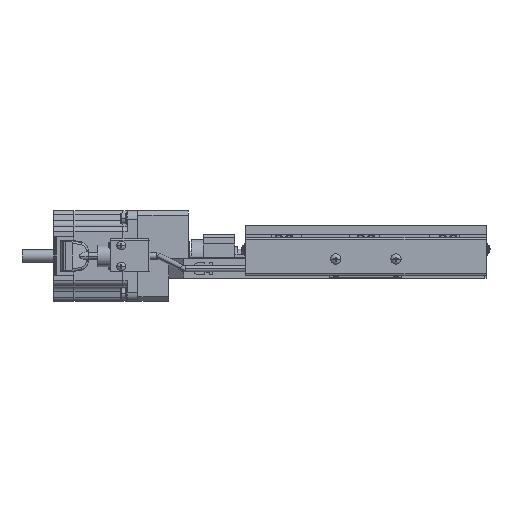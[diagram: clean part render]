
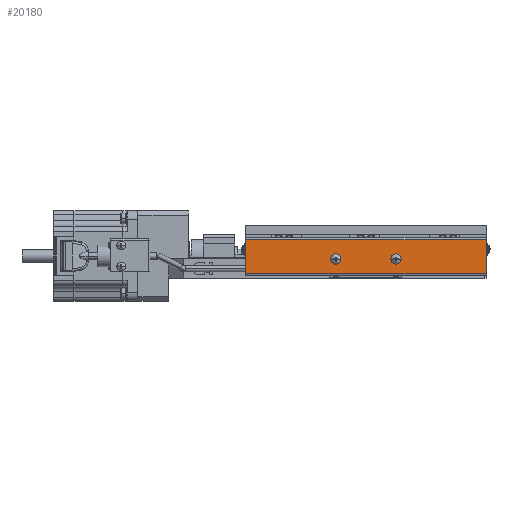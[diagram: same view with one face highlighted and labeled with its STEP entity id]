
A CAD part, front view. The second image highlights one B-rep face of the part: STEP entity #20180.
In plain terms, the highlighted planar face has unit normal (0, -1, 0).
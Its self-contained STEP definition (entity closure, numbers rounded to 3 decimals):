
#761 = CARTESIAN_POINT ( 'NONE',  ( 13.281, -236.094, 32. ) ) ;
#2467 = CARTESIAN_POINT ( 'NONE',  ( -90.169, -236.094, 43. ) ) ;
#3097 = ORIENTED_EDGE ( 'NONE', *, *, #27129, .F. ) ;
#3751 = DIRECTION ( 'NONE',  ( 0., -1., 0. ) ) ;
#4592 = CARTESIAN_POINT ( 'NONE',  ( 13.281, -236.094, 32. ) ) ;
#8463 = CARTESIAN_POINT ( 'NONE',  ( -86.719, -236.094, 43. ) ) ;
#9250 = EDGE_LOOP ( 'NONE', ( #38062, #51932, #44934, #31125 ) ) ;
#9367 = EDGE_CURVE ( 'NONE', #53500, #61115, #40804, .T. ) ;
#12209 = LINE ( 'NONE', #32824, #65970 ) ;
#12450 = DIRECTION ( 'NONE',  ( 0., -1., 0. ) ) ;
#13951 = AXIS2_PLACEMENT_3D ( 'NONE', #53475, #69715, #64525 ) ;
#17056 = CIRCLE ( 'NONE', #25833, 3.45 ) ;
#17706 = EDGE_LOOP ( 'NONE', ( #23760, #3097 ) ) ;
#18167 = DIRECTION ( 'NONE',  ( 1., 0., 0. ) ) ;
#18319 = CARTESIAN_POINT ( 'NONE',  ( -46.719, -236.094, 43. ) ) ;
#18697 = AXIS2_PLACEMENT_3D ( 'NONE', #18319, #12450, #49997 ) ;
#19873 = CARTESIAN_POINT ( 'NONE',  ( -146.719, -236.094, 32. ) ) ;
#20180 = ADVANCED_FACE ( 'NONE', ( #62602, #51694, #61791 ), #38775, .T. ) ;
#21415 = EDGE_CURVE ( 'NONE', #61442, #67387, #17056, .T. ) ;
#21743 = AXIS2_PLACEMENT_3D ( 'NONE', #8463, #45516, #34754 ) ;
#22505 = DIRECTION ( 'NONE',  ( -1., 0., 0. ) ) ;
#22961 = VECTOR ( 'NONE', #18167, 1000. ) ;
#23760 = ORIENTED_EDGE ( 'NONE', *, *, #35567, .F. ) ;
#24271 = ORIENTED_EDGE ( 'NONE', *, *, #21415, .F. ) ;
#25833 = AXIS2_PLACEMENT_3D ( 'NONE', #25882, #3751, #36646 ) ;
#25882 = CARTESIAN_POINT ( 'NONE',  ( -46.719, -236.094, 43. ) ) ;
#27129 = EDGE_CURVE ( 'NONE', #31441, #48971, #68517, .T. ) ;
#27445 = CARTESIAN_POINT ( 'NONE',  ( -146.719, -236.094, 33.2 ) ) ;
#27873 = CIRCLE ( 'NONE', #13951, 3.45 ) ;
#30843 = EDGE_CURVE ( 'NONE', #67387, #61442, #37790, .T. ) ;
#31125 = ORIENTED_EDGE ( 'NONE', *, *, #68982, .T. ) ;
#31441 = VERTEX_POINT ( 'NONE', #2467 ) ;
#31884 = CARTESIAN_POINT ( 'NONE',  ( -50.169, -236.094, 43. ) ) ;
#32824 = CARTESIAN_POINT ( 'NONE',  ( 13.281, -236.094, 55.8 ) ) ;
#34754 = DIRECTION ( 'NONE',  ( 1., 0., 0. ) ) ;
#35567 = EDGE_CURVE ( 'NONE', #48971, #31441, #27873, .T. ) ;
#36646 = DIRECTION ( 'NONE',  ( 1., 0., 0. ) ) ;
#37028 = DIRECTION ( 'NONE',  ( 0., 0., 1. ) ) ;
#37236 = LINE ( 'NONE', #50292, #22961 ) ;
#37790 = CIRCLE ( 'NONE', #18697, 3.45 ) ;
#38062 = ORIENTED_EDGE ( 'NONE', *, *, #55019, .F. ) ;
#38697 = LINE ( 'NONE', #19873, #51289 ) ;
#38775 = PLANE ( 'NONE',  #58601 ) ;
#39475 = DIRECTION ( 'NONE',  ( 1., 0., 0. ) ) ;
#39862 = CARTESIAN_POINT ( 'NONE',  ( -146.719, -236.094, 55.8 ) ) ;
#40058 = CARTESIAN_POINT ( 'NONE',  ( 13.281, -236.094, 33.2 ) ) ;
#40804 = LINE ( 'NONE', #4592, #64347 ) ;
#41036 = CARTESIAN_POINT ( 'NONE',  ( -43.269, -236.094, 43. ) ) ;
#44934 = ORIENTED_EDGE ( 'NONE', *, *, #9367, .T. ) ;
#45516 = DIRECTION ( 'NONE',  ( 0., -1., 0. ) ) ;
#48971 = VERTEX_POINT ( 'NONE', #55353 ) ;
#49997 = DIRECTION ( 'NONE',  ( 1., 0., 0. ) ) ;
#50292 = CARTESIAN_POINT ( 'NONE',  ( 13.281, -236.094, 33.2 ) ) ;
#51289 = VECTOR ( 'NONE', #68223, 1000. ) ;
#51694 = FACE_BOUND ( 'NONE', #58525, .T. ) ;
#51932 = ORIENTED_EDGE ( 'NONE', *, *, #53758, .T. ) ;
#53475 = CARTESIAN_POINT ( 'NONE',  ( -86.719, -236.094, 43. ) ) ;
#53500 = VERTEX_POINT ( 'NONE', #40058 ) ;
#53758 = EDGE_CURVE ( 'NONE', #65854, #53500, #37236, .T. ) ;
#54964 = DIRECTION ( 'NONE',  ( 0., -1., 0. ) ) ;
#55019 = EDGE_CURVE ( 'NONE', #65854, #58467, #38697, .T. ) ;
#55353 = CARTESIAN_POINT ( 'NONE',  ( -83.269, -236.094, 43. ) ) ;
#58467 = VERTEX_POINT ( 'NONE', #39862 ) ;
#58525 = EDGE_LOOP ( 'NONE', ( #24271, #58613 ) ) ;
#58601 = AXIS2_PLACEMENT_3D ( 'NONE', #761, #54964, #39475 ) ;
#58613 = ORIENTED_EDGE ( 'NONE', *, *, #30843, .F. ) ;
#61115 = VERTEX_POINT ( 'NONE', #63674 ) ;
#61442 = VERTEX_POINT ( 'NONE', #41036 ) ;
#61791 = FACE_OUTER_BOUND ( 'NONE', #9250, .T. ) ;
#62602 = FACE_BOUND ( 'NONE', #17706, .T. ) ;
#63674 = CARTESIAN_POINT ( 'NONE',  ( 13.281, -236.094, 55.8 ) ) ;
#64347 = VECTOR ( 'NONE', #37028, 1000. ) ;
#64525 = DIRECTION ( 'NONE',  ( 1., 0., 0. ) ) ;
#65854 = VERTEX_POINT ( 'NONE', #27445 ) ;
#65970 = VECTOR ( 'NONE', #22505, 1000. ) ;
#67387 = VERTEX_POINT ( 'NONE', #31884 ) ;
#68223 = DIRECTION ( 'NONE',  ( 0., 0., 1. ) ) ;
#68517 = CIRCLE ( 'NONE', #21743, 3.45 ) ;
#68982 = EDGE_CURVE ( 'NONE', #61115, #58467, #12209, .T. ) ;
#69715 = DIRECTION ( 'NONE',  ( 0., -1., 0. ) ) ;
